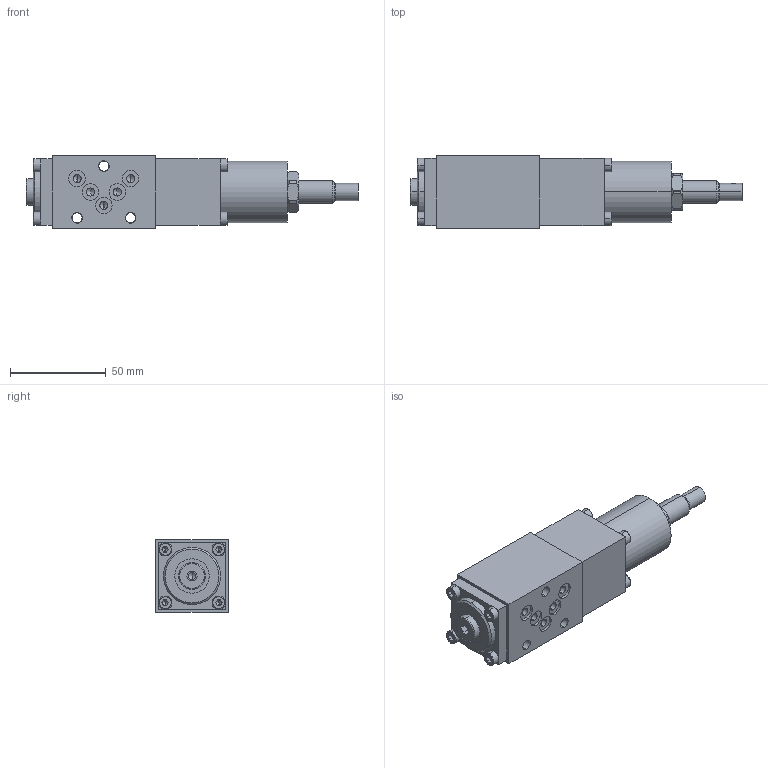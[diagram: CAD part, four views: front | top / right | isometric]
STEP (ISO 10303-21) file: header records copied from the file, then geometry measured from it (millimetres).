
FILE_DESCRIPTION (( 'STEP AP214' ), '1' );
FILE_NAME ('BDRVdN4.STEP', '2017-03-23T06:27:12', ( '' ), ( '' ), 'SwSTEP 2.0', 'SolidWorks 2016', '' );
FILE_SCHEMA (( 'AUTOMOTIVE_DESIGN' ));
Length unit declared in the file: millimetre
Products named in the file (1): BDRVdN4
Bounding box: 173.5 x 38 x 38 mm (x, y, z)
Volume: 158204.5 mm3; surface area: 33817.1 mm2
Topology: 4 solids, 16 shells, 533 faces, 1218 edges, 729 vertices
Faces by surface type: plane 256, cylinder 137, cone 79, torus 36, bspline 25
Entity records: 22245 total; most frequent: CARTESIAN_POINT 4411, DIRECTION 2543, ORIENTED_EDGE 2356, EDGE_CURVE 1178, AXIS2_PLACEMENT_3D 949, VERTEX_POINT 729, VECTOR 645, LINE 645
